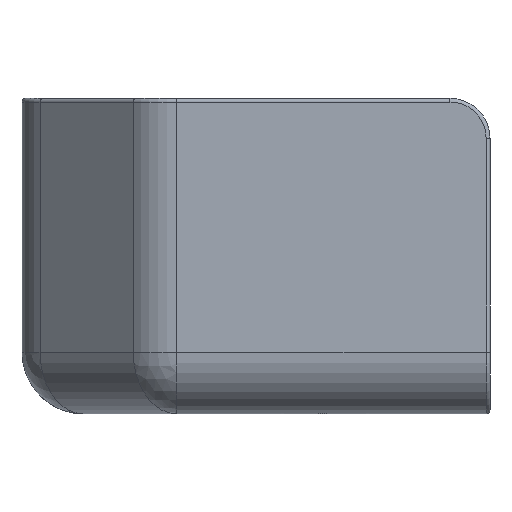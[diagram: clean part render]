
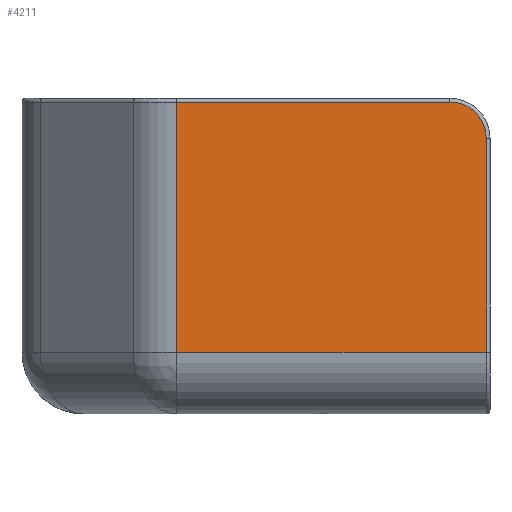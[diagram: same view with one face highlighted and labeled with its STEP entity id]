
A CAD part, front view. The second image highlights one B-rep face of the part: STEP entity #4211.
In plain terms, the highlighted planar face has unit normal (0, -1, 0).
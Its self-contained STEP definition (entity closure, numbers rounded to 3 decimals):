
#4176=AXIS2_PLACEMENT_3D('Plane Axis2P3D',#4173,#4174,#4175) ;
#4189=AXIS2_PLACEMENT_3D('Circle Axis2P3D',#4187,#4188,$) ;
#259=CARTESIAN_POINT('Vertex',(20.114,-6.,8.)) ;
#4154=CARTESIAN_POINT('Line Origine',(20.114,-6.,20.43)) ;
#4158=CARTESIAN_POINT('Vertex',(20.114,-6.,40.5)) ;
#4173=CARTESIAN_POINT('Axis2P3D Location',(60.8,-6.,0.)) ;
#4178=CARTESIAN_POINT('Line Origine',(60.3,-6.,21.9)) ;
#4182=CARTESIAN_POINT('Vertex',(60.3,-6.,8.)) ;
#4184=CARTESIAN_POINT('Vertex',(60.3,-6.,35.8)) ;
#4187=CARTESIAN_POINT('Axis2P3D Location',(55.6,-6.,35.8)) ;
#4191=CARTESIAN_POINT('Vertex',(55.6,-6.,40.5)) ;
#4194=CARTESIAN_POINT('Line Origine',(37.857,-6.,40.5)) ;
#4199=CARTESIAN_POINT('Line Origine',(40.207,-6.,8.)) ;
#4155=DIRECTION('Vector Direction',(0.,0.,1.)) ;
#4174=DIRECTION('Axis2P3D Direction',(-0.,1.,0.)) ;
#4175=DIRECTION('Axis2P3D XDirection',(-1.,-0.,0.)) ;
#4179=DIRECTION('Vector Direction',(0.,0.,-1.)) ;
#4188=DIRECTION('Axis2P3D Direction',(-0.,1.,0.)) ;
#4195=DIRECTION('Vector Direction',(1.,0.,0.)) ;
#4200=DIRECTION('Vector Direction',(-1.,0.,0.)) ;
#4156=VECTOR('Line Direction',#4155,1.) ;
#4180=VECTOR('Line Direction',#4179,1.) ;
#4196=VECTOR('Line Direction',#4195,1.) ;
#4201=VECTOR('Line Direction',#4200,1.) ;
#4205=ORIENTED_EDGE('',*,*,#4186,.T.) ;
#4206=ORIENTED_EDGE('',*,*,#4193,.T.) ;
#4207=ORIENTED_EDGE('',*,*,#4198,.T.) ;
#4208=ORIENTED_EDGE('',*,*,#4160,.F.) ;
#4209=ORIENTED_EDGE('',*,*,#4203,.F.) ;
#4211=ADVANCED_FACE('VOLCANO_Doppia_5015_senza_Ventola',(#4210),#4177,.F.) ;
#4190=CIRCLE('generated circle',#4189,4.7) ;
#4160=EDGE_CURVE('',#260,#4159,#4157,.T.) ;
#4186=EDGE_CURVE('',#4183,#4185,#4181,.F.) ;
#4193=EDGE_CURVE('',#4185,#4192,#4190,.F.) ;
#4198=EDGE_CURVE('',#4192,#4159,#4197,.F.) ;
#4203=EDGE_CURVE('',#4183,#260,#4202,.T.) ;
#4204=EDGE_LOOP('',(#4205,#4206,#4207,#4208,#4209)) ;
#4210=FACE_OUTER_BOUND('',#4204,.T.) ;
#4157=LINE('Line',#4154,#4156) ;
#4181=LINE('Line',#4178,#4180) ;
#4197=LINE('Line',#4194,#4196) ;
#4202=LINE('Line',#4199,#4201) ;
#4177=PLANE('',#4176) ;
#260=VERTEX_POINT('',#259) ;
#4159=VERTEX_POINT('',#4158) ;
#4183=VERTEX_POINT('',#4182) ;
#4185=VERTEX_POINT('',#4184) ;
#4192=VERTEX_POINT('',#4191) ;
